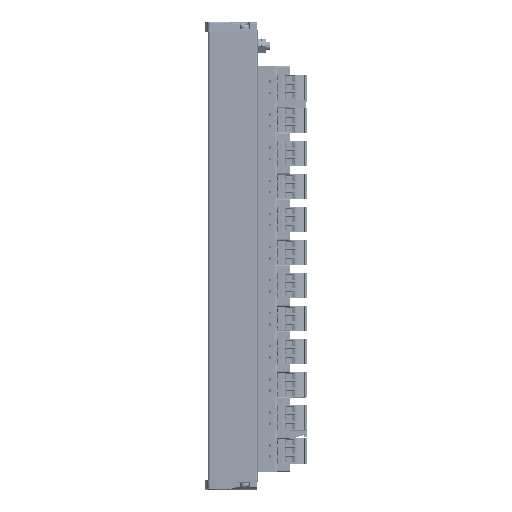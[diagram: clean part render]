
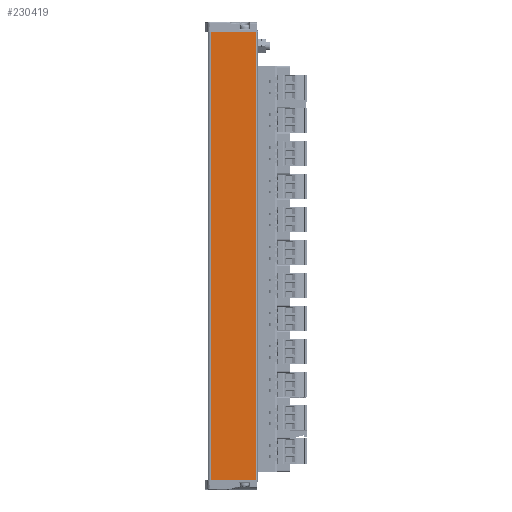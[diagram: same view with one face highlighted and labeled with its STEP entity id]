
A CAD part, top view. The second image highlights one B-rep face of the part: STEP entity #230419.
In plain terms, the highlighted planar face has unit normal (0, 0, 1).
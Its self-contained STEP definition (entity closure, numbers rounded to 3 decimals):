
#27214 = CARTESIAN_POINT ( 'NONE',  ( -5.965, -137.282, 35.801 ) ) ;
#27217 = CARTESIAN_POINT ( 'NONE',  ( -32.665, 126.718, 35.801 ) ) ;
#27219 = CARTESIAN_POINT ( 'NONE',  ( -32.665, -137.282, 35.801 ) ) ;
#27221 = CARTESIAN_POINT ( 'NONE',  ( -5.965, 126.718, 35.801 ) ) ;
#50871 = AXIS2_PLACEMENT_3D ( 'NONE', #135359, #135377, #135379 ) ;
#117428 = EDGE_CURVE ( 'NONE', #140257, #140252, #234155, .T. ) ;
#117429 = EDGE_CURVE ( 'NONE', #140246, #140257, #234163, .T. ) ;
#117430 = EDGE_CURVE ( 'NONE', #140260, #140246, #234171, .T. ) ;
#117431 = EDGE_CURVE ( 'NONE', #140252, #140260, #234177, .T. ) ;
#120702 = FACE_OUTER_BOUND ( 'NONE', #244961, .T. ) ;
#135110 = ORIENTED_EDGE ( 'NONE', *, *, #117428, .F. ) ;
#135113 = ORIENTED_EDGE ( 'NONE', *, *, #117429, .F. ) ;
#135115 = ORIENTED_EDGE ( 'NONE', *, *, #117430, .F. ) ;
#135118 = ORIENTED_EDGE ( 'NONE', *, *, #117431, .F. ) ;
#135359 = CARTESIAN_POINT ( 'NONE',  ( -5.965, -26.282, 35.801 ) ) ;
#135374 = PLANE ( 'NONE',  #50871 ) ;
#135377 = DIRECTION ( 'NONE',  ( 0., 0., -1. ) ) ;
#135379 = DIRECTION ( 'NONE',  ( -1., 0., 0. ) ) ;
#140246 = VERTEX_POINT ( 'NONE', #27214 ) ;
#140252 = VERTEX_POINT ( 'NONE', #27217 ) ;
#140257 = VERTEX_POINT ( 'NONE', #27219 ) ;
#140260 = VERTEX_POINT ( 'NONE', #27221 ) ;
#230419 = ADVANCED_FACE ( 'NONE', ( #120702 ), #135374, .F. ) ;
#234155 = LINE ( 'NONE', #251677, #234169 ) ;
#234163 = LINE ( 'NONE', #251672, #234174 ) ;
#234169 = VECTOR ( 'NONE', #251678, 1000. ) ;
#234171 = LINE ( 'NONE', #251680, #234180 ) ;
#234174 = VECTOR ( 'NONE', #251679, 1000. ) ;
#234177 = LINE ( 'NONE', #251682, #234185 ) ;
#234180 = VECTOR ( 'NONE', #251681, 1000. ) ;
#234185 = VECTOR ( 'NONE', #251683, 1000. ) ;
#244961 = EDGE_LOOP ( 'NONE', ( #135110, #135113, #135115, #135118 ) ) ;
#251672 = CARTESIAN_POINT ( 'NONE',  ( -32.759, -137.282, 35.801 ) ) ;
#251677 = CARTESIAN_POINT ( 'NONE',  ( -32.665, -26.282, 35.801 ) ) ;
#251678 = DIRECTION ( 'NONE',  ( 0., 1., 0. ) ) ;
#251679 = DIRECTION ( 'NONE',  ( -1., 0., 0. ) ) ;
#251680 = CARTESIAN_POINT ( 'NONE',  ( -5.965, -26.282, 35.801 ) ) ;
#251681 = DIRECTION ( 'NONE',  ( 0., -1., 0. ) ) ;
#251682 = CARTESIAN_POINT ( 'NONE',  ( -32.759, 126.718, 35.801 ) ) ;
#251683 = DIRECTION ( 'NONE',  ( 1., 0., 0. ) ) ;
